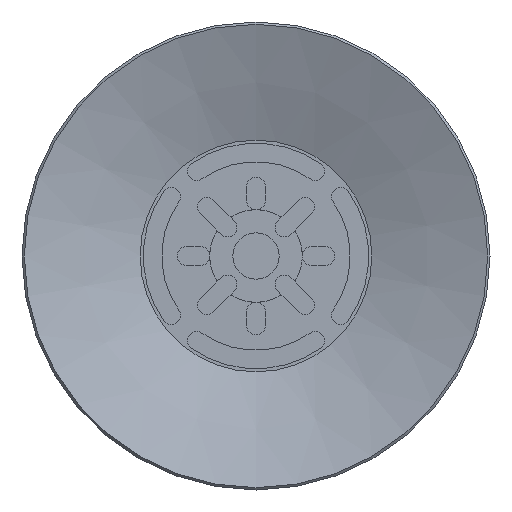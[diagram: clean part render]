
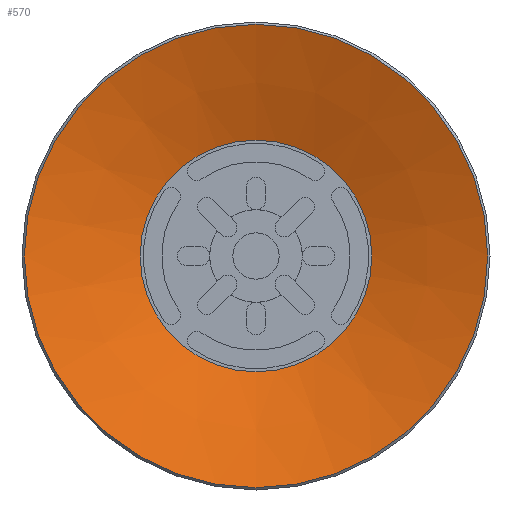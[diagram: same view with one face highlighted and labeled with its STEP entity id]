
A CAD part, front view. The second image highlights one B-rep face of the part: STEP entity #570.
In plain terms, the highlighted conical face has half-angle 70.201 degrees and reference radius 7.5 mm.
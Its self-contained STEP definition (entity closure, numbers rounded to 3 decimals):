
#570=ADVANCED_FACE('',(#974,#975),#976,.F.);
#974=FACE_BOUND('',#1380,.T.);
#975=FACE_OUTER_BOUND('',#1381,.T.);
#976=CONICAL_SURFACE('',#1382,7.5,1.225);
#1380=EDGE_LOOP('',(#2647));
#1381=EDGE_LOOP('',(#2648));
#1382=AXIS2_PLACEMENT_3D('',#2649,#2650,#2651);
#2647=ORIENTED_EDGE('',*,*,#3011,.F.);
#2648=ORIENTED_EDGE('',*,*,#2981,.T.);
#2649=CARTESIAN_POINT('',(0.0,0.0,2.7));
#2650=DIRECTION('',(0.0,0.,-1.0));
#2651=DIRECTION('',(0.0,1.0,0.));
#2981=EDGE_CURVE('',#3591,#3591,#3592,.T.);
#3011=EDGE_CURVE('',#3635,#3635,#3636,.T.);
#3591=VERTEX_POINT('',#4744);
#3592=CIRCLE('',#4745,15.0);
#3635=VERTEX_POINT('',#4798);
#3636=CIRCLE('',#4799,7.5);
#4744=CARTESIAN_POINT('',(0.0,15.0,0.));
#4745=AXIS2_PLACEMENT_3D('',#5398,#5399,#5400);
#4798=CARTESIAN_POINT('',(0.0,7.5,2.7));
#4799=AXIS2_PLACEMENT_3D('',#5468,#5469,#5470);
#5398=CARTESIAN_POINT('',(0.0,0.0,0.0));
#5399=DIRECTION('',(0.0,0.,-1.0));
#5400=DIRECTION('',(0.0,1.0,0.));
#5468=CARTESIAN_POINT('',(0.0,0.0,2.7));
#5469=DIRECTION('',(0.0,0.,-1.0));
#5470=DIRECTION('',(0.0,1.0,0.));
